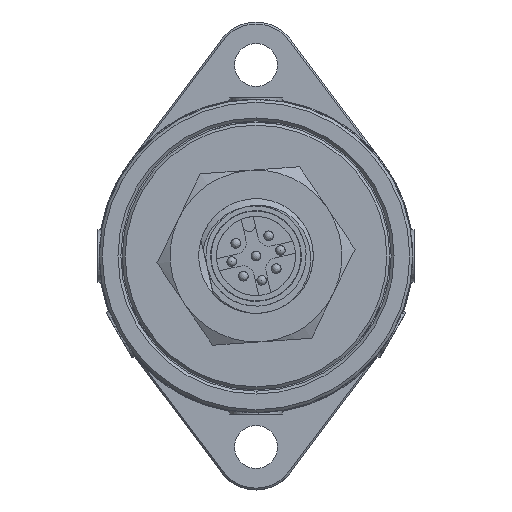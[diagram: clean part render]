
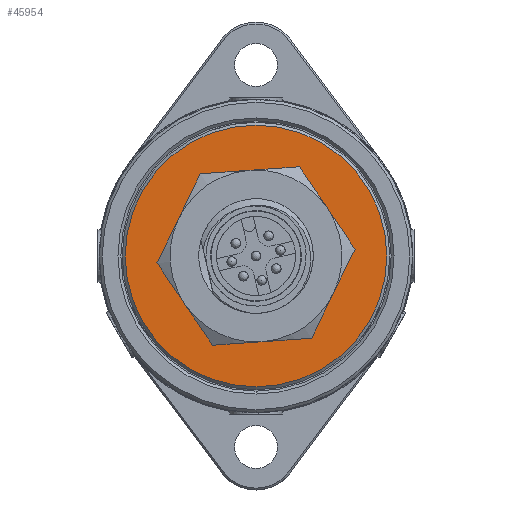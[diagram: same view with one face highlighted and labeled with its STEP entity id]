
A CAD part, left-side view. The second image highlights one B-rep face of the part: STEP entity #45954.
In plain terms, the highlighted planar face has unit normal (-1, 0, 0).
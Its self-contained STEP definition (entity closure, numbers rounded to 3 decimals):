
#86 = DIRECTION ( 'NONE',  ( 0., 0.866, 0.5 ) ) ;
#945 = AXIS2_PLACEMENT_3D ( 'NONE', #23092, #51416, #11200 ) ;
#1450 = DIRECTION ( 'NONE',  ( 0., 0.866, 0.5 ) ) ;
#2900 = EDGE_LOOP ( 'NONE', ( #48591, #31326 ) ) ;
#3213 = AXIS2_PLACEMENT_3D ( 'NONE', #6280, #42812, #1450 ) ;
#5751 = CIRCLE ( 'NONE', #31811, 13.7 ) ;
#6280 = CARTESIAN_POINT ( 'NONE',  ( -233.735, 100., 0. ) ) ;
#7603 = FACE_OUTER_BOUND ( 'NONE', #2900, .T. ) ;
#8092 = CIRCLE ( 'NONE', #34634, 13.7 ) ;
#11200 = DIRECTION ( 'NONE',  ( 0., 0.866, 0.5 ) ) ;
#12474 = DIRECTION ( 'NONE',  ( 0., 0.866, 0.5 ) ) ;
#12647 = VERTEX_POINT ( 'NONE', #36046 ) ;
#16348 = CARTESIAN_POINT ( 'NONE',  ( -233.735, 100., 0. ) ) ;
#16515 = CARTESIAN_POINT ( 'NONE',  ( -233.735, 97., 5.196 ) ) ;
#19090 = FACE_BOUND ( 'NONE', #41644, .T. ) ;
#20043 = ORIENTED_EDGE ( 'NONE', *, *, #36587, .T. ) ;
#23092 = CARTESIAN_POINT ( 'NONE',  ( -233.735, 100., 0. ) ) ;
#24833 = PLANE ( 'NONE',  #48687 ) ;
#31243 = VERTEX_POINT ( 'NONE', #49165 ) ;
#31326 = ORIENTED_EDGE ( 'NONE', *, *, #33777, .T. ) ;
#31811 = AXIS2_PLACEMENT_3D ( 'NONE', #16348, #32118, #86 ) ;
#32118 = DIRECTION ( 'NONE',  ( -1., 0., 0. ) ) ;
#33777 = EDGE_CURVE ( 'NONE', #31243, #47540, #5751, .T. ) ;
#34634 = AXIS2_PLACEMENT_3D ( 'NONE', #41222, #48853, #40532 ) ;
#34869 = CARTESIAN_POINT ( 'NONE',  ( -233.735, 111.865, 6.85 ) ) ;
#34900 = VERTEX_POINT ( 'NONE', #43373 ) ;
#36046 = CARTESIAN_POINT ( 'NONE',  ( -233.735, 94.544, -3.15 ) ) ;
#36395 = DIRECTION ( 'NONE',  ( 1., 0., 0. ) ) ;
#36587 = EDGE_CURVE ( 'NONE', #12647, #34900, #40085, .T. ) ;
#39661 = ORIENTED_EDGE ( 'NONE', *, *, #52279, .T. ) ;
#40085 = CIRCLE ( 'NONE', #945, 6.3 ) ;
#40532 = DIRECTION ( 'NONE',  ( 0., 0.866, 0.5 ) ) ;
#41222 = CARTESIAN_POINT ( 'NONE',  ( -233.735, 100., 0. ) ) ;
#41644 = EDGE_LOOP ( 'NONE', ( #20043, #39661 ) ) ;
#42812 = DIRECTION ( 'NONE',  ( 1., 0., 0. ) ) ;
#43373 = CARTESIAN_POINT ( 'NONE',  ( -233.735, 105.456, 3.15 ) ) ;
#45954 = ADVANCED_FACE ( 'NONE', ( #7603, #19090 ), #24833, .F. ) ;
#47540 = VERTEX_POINT ( 'NONE', #34869 ) ;
#48591 = ORIENTED_EDGE ( 'NONE', *, *, #49498, .T. ) ;
#48687 = AXIS2_PLACEMENT_3D ( 'NONE', #16515, #36395, #12474 ) ;
#48853 = DIRECTION ( 'NONE',  ( -1., 0., 0. ) ) ;
#49165 = CARTESIAN_POINT ( 'NONE',  ( -233.735, 88.135, -6.85 ) ) ;
#49454 = CIRCLE ( 'NONE', #3213, 6.3 ) ;
#49498 = EDGE_CURVE ( 'NONE', #47540, #31243, #8092, .T. ) ;
#51416 = DIRECTION ( 'NONE',  ( 1., 0., 0. ) ) ;
#52279 = EDGE_CURVE ( 'NONE', #34900, #12647, #49454, .T. ) ;
